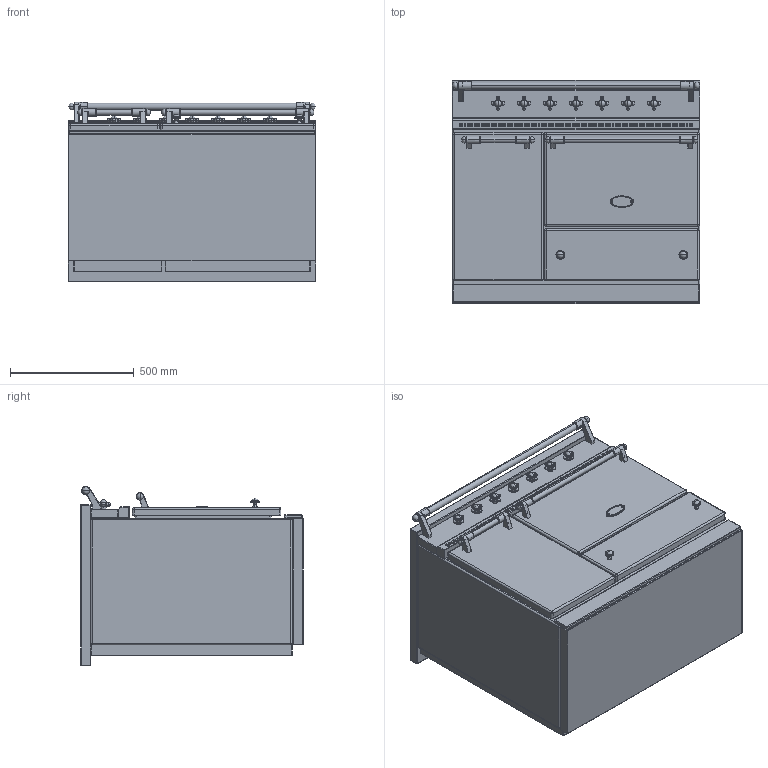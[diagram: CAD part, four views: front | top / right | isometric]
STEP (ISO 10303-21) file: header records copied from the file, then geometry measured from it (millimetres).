
FILE_DESCRIPTION((''),'2;1');
FILE_NAME('LVTR1051_VOLNAY_ASM','2014-07-29T',('r.avril'),(''),'PRO/ENGINEER BY PARAMETRIC TECHNOLOGY CORPORATION, 2014090','PRO/ENGINEER BY PARAMETRIC TECHNOLOGY CORPORATION, 2014090','');
FILE_SCHEMA(('AP203_CONFIGURATION_CONTROLLED_3D_DESIGN_OF_MECHANICAL_PARTS_AND_ASSEMBLIES_MIM_LF { 1 0 10303 403 2 1 2 }'));
Products named in the file (17): BASE_EXPORT_VOLNAY; 65650003; 65650004; 6531940; 6531941; 6531943; 65049009; 65650001; 6538399; 1931942; 6518450; 6531942_ASM; BASE_EXPORT_VOLNAY_ASM; TABLE_1000_VITRO; 65052005; TABLE_1000_VITRO_ASM; LVTR1051_VOLNAY_ASM
Assembly tree (25 placements, depth 4):
  LVTR1051_VOLNAY_ASM
    BASE_EXPORT_VOLNAY_ASM
      BASE_EXPORT_VOLNAY
      65650003
      65650004
      6531940  x2
      6531941  x2
      6531943  x2
      65049009
      65650001
      6531942_ASM  x7
        6538399
        1931942
        6518450
    TABLE_1000_VITRO_ASM
      TABLE_1000_VITRO
      65052005
Bounding box: 1000 x 901 x 724 mm (x, y, z)
Volume: 525828622.2 mm3; surface area: 8636286 mm2
Topology: 34 solids, 42 shells, 3249 faces, 9072 edges, 6155 vertices
Faces by surface type: plane 1707, cylinder 870, extrusion 198, torus 178, sphere 172, cone 62, bspline 50, revolution 12
Entity records: 59409 total; most frequent: CARTESIAN_POINT 11767, DIRECTION 7896, ORIENTED_EDGE 6386, EDGE_CURVE 3203, AXIS2_PLACEMENT_3D 2809, VECTOR 2219, LINE 2189, VERTEX_POINT 2013
